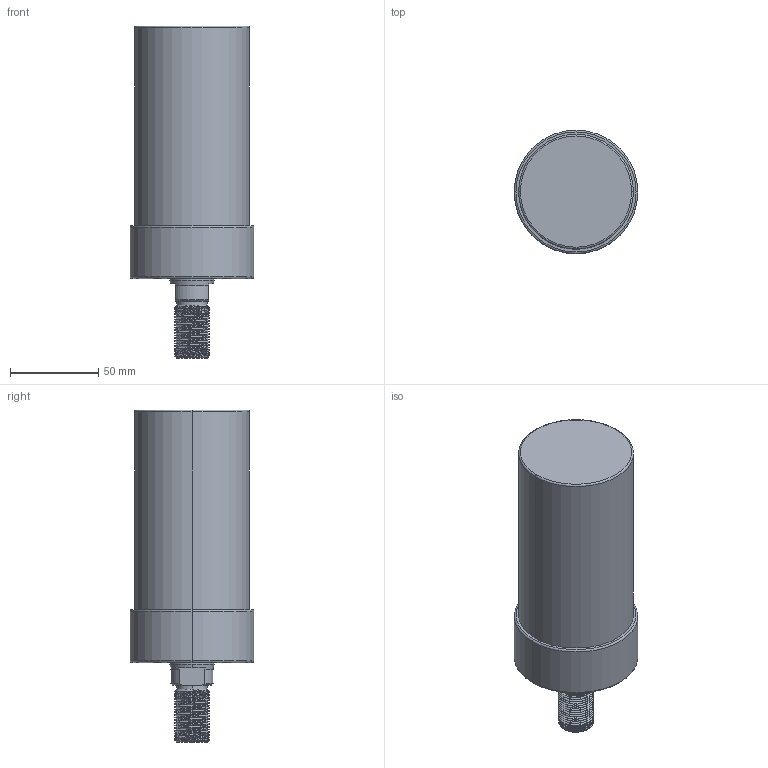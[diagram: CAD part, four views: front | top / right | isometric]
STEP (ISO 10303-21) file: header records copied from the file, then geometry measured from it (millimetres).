
FILE_DESCRIPTION (( 'STEP AP203' ), '1' );
FILE_NAME ('CLLU-065GT-080.STEP', '2020-01-16T02:08:45', ( '' ), ( '' ), 'SwSTEP 2.0', 'SolidWorks 2015', '' );
FILE_SCHEMA (( 'CONFIG_CONTROL_DESIGN' ));
Length unit declared in the file: millimetre
Products named in the file (1): CLLU-065GT-080
Bounding box: 70 x 70 x 188 mm (x, y, z)
Volume: 503189.4 mm3; surface area: 42490.7 mm2
Topology: 1 solids, 1 shells, 106 faces, 269 edges, 166 vertices
Faces by surface type: cylinder 60, cone 26, plane 12, torus 6, bspline 2
Entity records: 5383 total; most frequent: CARTESIAN_POINT 3006, ORIENTED_EDGE 522, DIRECTION 451, EDGE_CURVE 261, AXIS2_PLACEMENT_3D 180, VERTEX_POINT 166, EDGE_LOOP 115, ADVANCED_FACE 106
